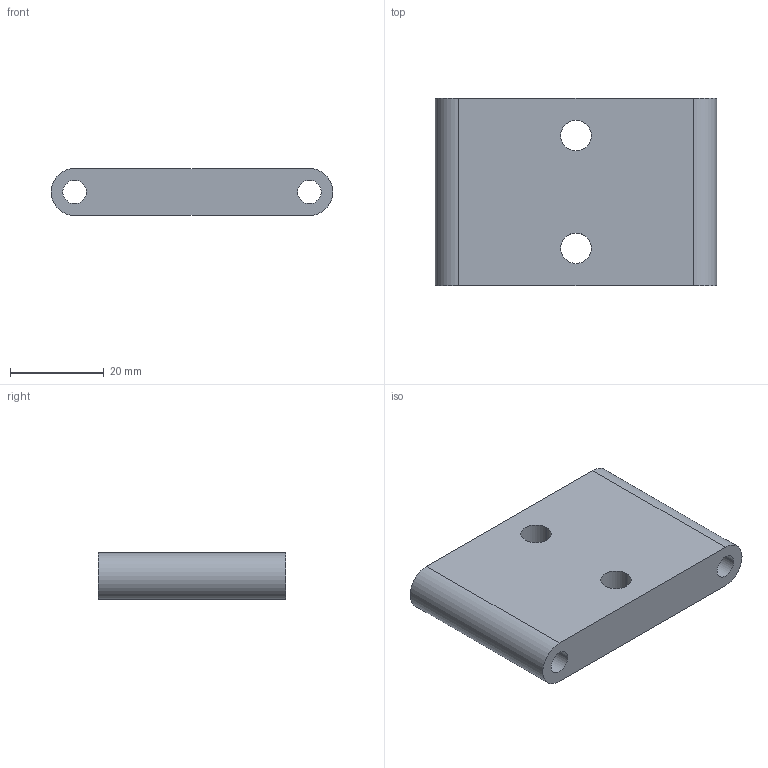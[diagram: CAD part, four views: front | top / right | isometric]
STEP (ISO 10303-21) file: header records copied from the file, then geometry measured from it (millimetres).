
FILE_DESCRIPTION((''),'2;1');
FILE_NAME('CEP45_D','2002-12-27T',('Lipro doo'),('Lipro d.o.o.'),'PRO/ENGINEER BY PARAMETRIC TECHNOLOGY CORPORATION, 2001150','PRO/ENGINEER BY PARAMETRIC TECHNOLOGY CORPORATION, 2001150','');
FILE_SCHEMA(('CONFIG_CONTROL_DESIGN'));
Length unit declared in the file: millimetre
Products named in the file (1): CEP45_D
Bounding box: 60 x 40 x 10 mm (x, y, z)
Volume: 20666.8 mm3; surface area: 7819.1 mm2
Topology: 1 solids, 1 shells, 18 faces, 44 edges, 28 vertices
Faces by surface type: cylinder 10, plane 4, cone 4
Entity records: 594 total; most frequent: DIRECTION 104, CARTESIAN_POINT 90, ORIENTED_EDGE 88, EDGE_CURVE 44, AXIS2_PLACEMENT_3D 42, VERTEX_POINT 28, EDGE_LOOP 26, CIRCLE 24
